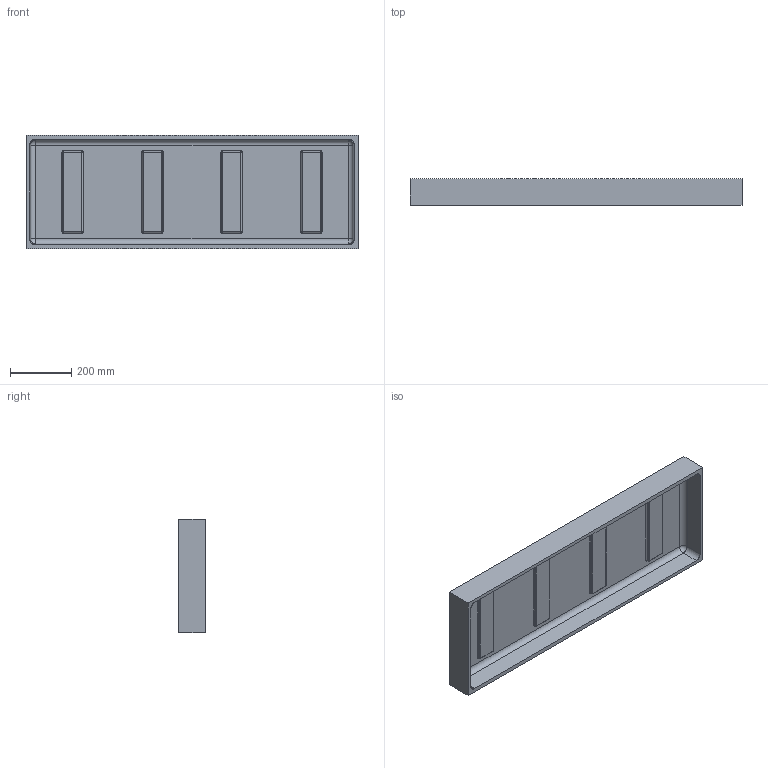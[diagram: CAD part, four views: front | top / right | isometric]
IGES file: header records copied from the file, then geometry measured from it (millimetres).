
Start section: SolidWorks IGES file using analytic representation for surfaces
Global section: file name: C:\Working\1740\New Folder\1741-931T-CLR OEM.IGS; native system: SolidWorks 2007; preprocessor: SolidWorks 2007; author: mhakami; date: 091007.130923; units: inch
Bounding box: 1082.03 x 87.31 x 369.31 mm (x, y, z)
Surface area: 1251118.1 mm2 (no closed solid volume)
Topology: 0 solids, 0 shells, 139 faces, 1016 edges, 1016 vertices
Faces by surface type: revolution 76, bspline 63
